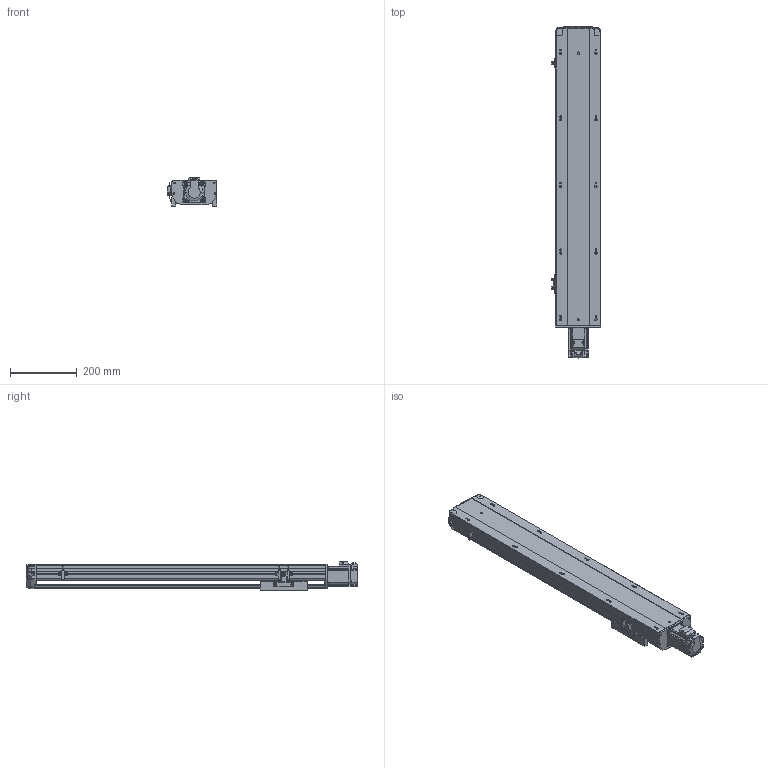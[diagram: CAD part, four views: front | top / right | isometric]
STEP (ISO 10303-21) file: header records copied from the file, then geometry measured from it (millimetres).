
FILE_DESCRIPTION (( 'STEP AP203' ), '1' );
FILE_NAME ('13.STEP', '2020-11-07T01:38:20', ( '' ), ( '' ), 'SwSTEP 2.0', 'SolidWorks 2016', '' );
FILE_SCHEMA (( 'CONFIG_CONTROL_DESIGN' ));
Length unit declared in the file: millimetre
Products named in the file (7): BTH14-BC-01; BTH14-BC-04; BTH14-BC-菁釱; BTH14-BC-P20; 13; BTH14-BC-02; BTH14-BC-HZ
Assembly tree (8 placements, depth 2):
  13
    BTH14-BC-菁釱
    BTH14-BC-01
    BTH14-BC-02
    BTH14-BC-04  x3
    BTH14-BC-HZ
    BTH14-BC-P20
Bounding box: 148.7 x 997.02 x 84.91 mm (x, y, z)
Volume: 3972710 mm3; surface area: 874286.3 mm2
Topology: 12 solids, 12 shells, 1766 faces, 4821 edges, 3119 vertices
Faces by surface type: plane 921, cylinder 491, bspline 200, cone 110, torus 44
Entity records: 61911 total; most frequent: CARTESIAN_POINT 22800, ORIENTED_EDGE 8470, DIRECTION 7361, EDGE_CURVE 4235, VERTEX_POINT 2759, AXIS2_PLACEMENT_3D 2498, VECTOR 2365, LINE 2365
